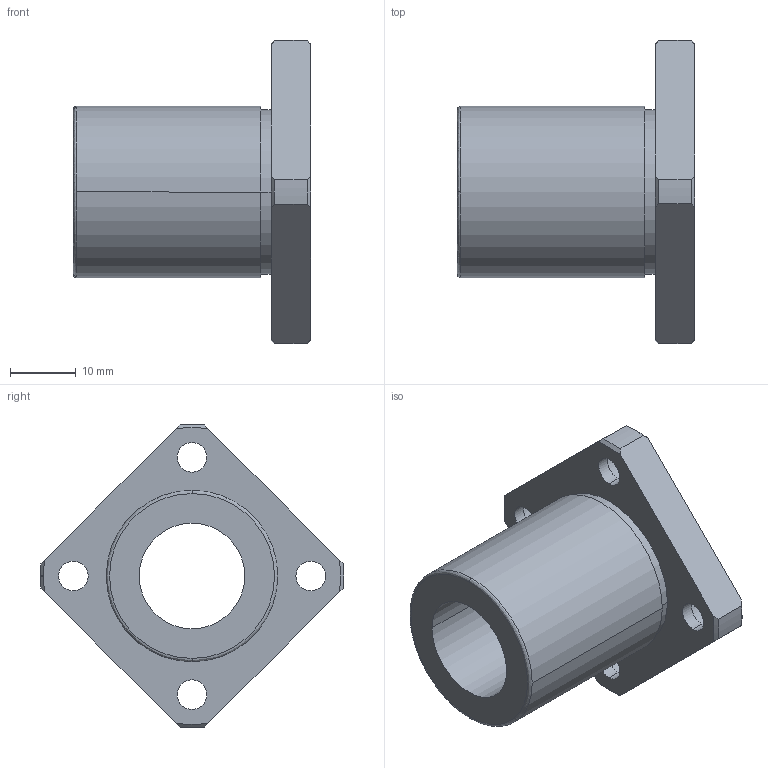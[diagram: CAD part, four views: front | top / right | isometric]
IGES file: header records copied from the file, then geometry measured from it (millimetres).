
Start section: 3D InterOp IGES (Version 21 0 1), Spatial Corp. Copyright (c) 1999-2007.
Global section: file name: NF-16VUU.igs; native system: Spatial Corp.; preprocessor: 3D InterOp GENERIC/IGES 3.0; author: Noname; organization: Noname; date: 20220308.154151; units: millimetre
Bounding box: 36 x 45.99 x 45.98 mm (x, y, z)
Surface area: 7500 mm2 (no closed solid volume)
Topology: 0 solids, 0 shells, 51 faces, 256 edges, 256 vertices
Faces by surface type: revolution 39, extrusion 12
